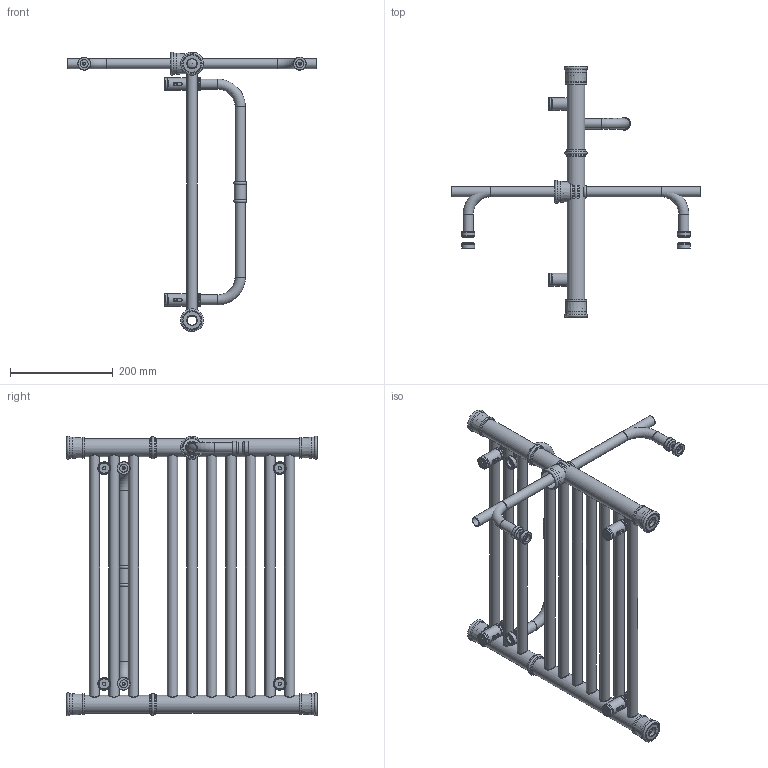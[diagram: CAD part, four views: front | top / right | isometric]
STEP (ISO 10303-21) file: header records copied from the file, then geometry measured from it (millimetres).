
FILE_DESCRIPTION( ( 'Unknown' ), '1' );
FILE_NAME( 'D:/Alplast sp. j/Witryna zespoBu - Projekty/Archiwum/Grzejniki Archiwum/Projekty/DESIGN PROGRAM/RETRO/Retro A1-500.stp', 'Unknown', ( 'Unknown' ), ( 'Unknown' ), 'PSStep 10.1', 'Unknown', ' ' );
FILE_SCHEMA( ( 'AUTOMOTIVE_DESIGN { 1 0 10303 214 1 1 1 1 }' ) );
Length unit declared in the file: millimetre
Products named in the file (40): mocowanie do œciany; suszarka Retro 500; katurek z wkrêtem do mocowania do  sciany; Assem1; Katurek fi 25 v4 ; wkrêt do katurka fi 25 v4; tulejka do mocowania grzejnika v3; mocowanie do grzejnika v3; zaœlepka do mocowania do œciany; detal-v3. par; element do suszarki do mocowania; element do suszarki do mocowania-oa0; tulejka do suszarki ; tulejka do suszarki -oa1; element do suszarki do mocowania ty³; element do suszarki do mocowania ty³-oa2; suszarka 500; kolektor Retro A1; kolektor Retro A1-oa3; Kana³ Prosty Retro 500; Kana³ Prosty Retro 500-oa4; Kana³ Prosty Retro 500-oa5; Kana³ Prosty Retro 500-oa6; Kana³ Prosty Retro 500-oa7; Kana³ Prosty Retro 500-oa8; Kana³ Prosty Retro 500-oa9; Kana³ Prosty Retro 500-oa10; Kana³ Prosty Retro 500-oa11; Kana³ Prosty Retro 500-oa12; Kana³ Prosty Retro 500-oa13; Zaslepka fi 35 z gwintem ; Zaslepka fi 35 z gwintem -oa14; Zaslepka fi 35 z gwintem -oa15; Zaslepka fi 35 z gwintem -oa16; pierœcieñ na rurê fi 36 w¹ski; pierœcieñ na rurê fi 36 w¹ski-oa17; pierœcieñ ozdobny 1; pierœcieñ ozdobny 1-oa18; pierœcieñ ozdobny 1-oa19; pierœcieñ ozdobny 1-oa20
Bounding box: 484 x 488 x 544.93 mm (x, y, z)
Volume: 1459310.6 mm3; surface area: 2087327.9 mm2
Topology: 102 solids, 102 shells, 884 faces, 1776 edges, 1130 vertices
Faces by surface type: cylinder 338, plane 262, torus 189, cone 76, bspline 12, sphere 7
Full cylindrical faces by diameter (mm): 4.917 x24, 5.9 x6, 6 x27, 6.3 x6, 6.4 x6, 15.5 x6, 17.5 x6, 17.6 x31, 18.631 x8, 20 x31, 20.3 x3, 20.5 x40, 20.6 x6, 21.15 x6, 21.9 x18, 22.8 x3, 24.5 x6, 25 x21, 25.25 x6, 25.3 x6, 32 x8, 32.4 x4, 35 x12, 35.3 x4, 35.5 x8, 39 x8, 41.15 x16
Entity records: 13554 total; most frequent: CARTESIAN_POINT 5102, DIRECTION 1234, ORIENTED_EDGE 654, EDGE_LOOP 636, AXIS2_PLACEMENT_3D 613, FACE_OUTER_BOUND 485, EDGE_CURVE 327, VERTEX_POINT 324
